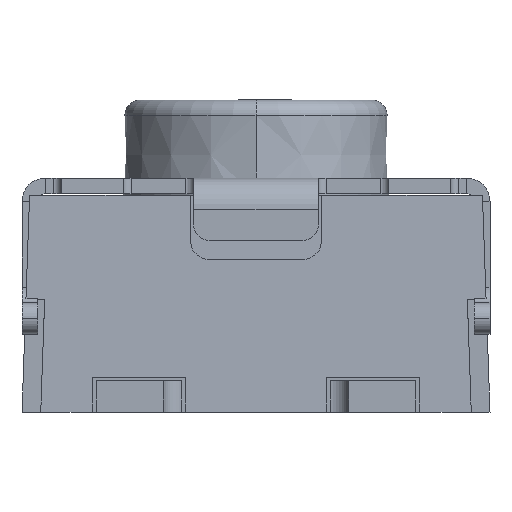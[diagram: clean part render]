
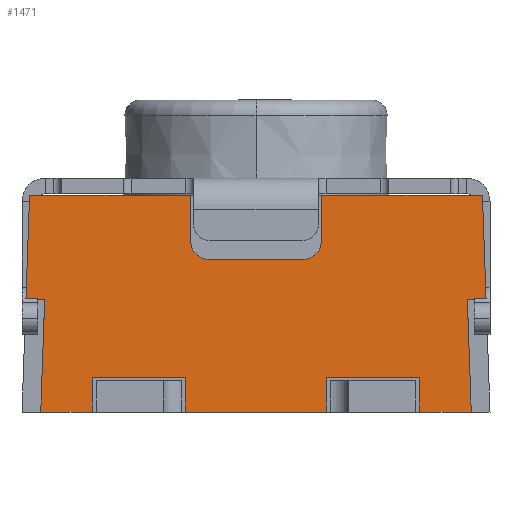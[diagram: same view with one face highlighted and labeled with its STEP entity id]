
A CAD part, left-side view. The second image highlights one B-rep face of the part: STEP entity #1471.
In plain terms, the highlighted planar face has unit normal (-0.999, 0, 0.035).
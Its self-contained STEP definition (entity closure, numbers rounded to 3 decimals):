
#177 = VERTEX_POINT('',#178);
#178 = CARTESIAN_POINT('',(-1.701,-0.42,1.39));
#184 = EDGE_CURVE('',#177,#185,#187,.T.);
#185 = VERTEX_POINT('',#186);
#186 = CARTESIAN_POINT('',(-1.701,-1.451,1.39));
#187 = LINE('',#188,#189);
#188 = CARTESIAN_POINT('',(-1.701,1.5,1.39));
#189 = VECTOR('',#190,1.);
#190 = DIRECTION('',(0.,-1.,0.));
#321 = VERTEX_POINT('',#322);
#322 = CARTESIAN_POINT('',(-1.701,1.451,1.39));
#328 = EDGE_CURVE('',#321,#329,#331,.T.);
#329 = VERTEX_POINT('',#330);
#330 = CARTESIAN_POINT('',(-1.701,0.42,1.39));
#331 = LINE('',#332,#333);
#332 = CARTESIAN_POINT('',(-1.701,1.5,1.39));
#333 = VECTOR('',#334,1.);
#334 = DIRECTION('',(0.,-1.,0.));
#1159 = VERTEX_POINT('',#1160);
#1160 = CARTESIAN_POINT('',(-1.75,1.05,0.));
#1166 = EDGE_CURVE('',#1167,#1159,#1169,.T.);
#1167 = VERTEX_POINT('',#1168);
#1168 = CARTESIAN_POINT('',(-1.75,1.38,0.));
#1169 = LINE('',#1170,#1171);
#1170 = CARTESIAN_POINT('',(-1.75,1.5,0.));
#1171 = VECTOR('',#1172,1.);
#1172 = DIRECTION('',(0.,-1.,0.));
#1292 = VERTEX_POINT('',#1293);
#1293 = CARTESIAN_POINT('',(-1.75,-1.38,0.));
#1299 = EDGE_CURVE('',#1300,#1292,#1302,.T.);
#1300 = VERTEX_POINT('',#1301);
#1301 = CARTESIAN_POINT('',(-1.75,-1.05,0.));
#1302 = LINE('',#1303,#1304);
#1303 = CARTESIAN_POINT('',(-1.75,1.5,0.));
#1304 = VECTOR('',#1305,1.);
#1305 = DIRECTION('',(0.,-1.,0.));
#1324 = VERTEX_POINT('',#1325);
#1325 = CARTESIAN_POINT('',(-1.75,-0.45,0.));
#1331 = EDGE_CURVE('',#1332,#1324,#1334,.T.);
#1332 = VERTEX_POINT('',#1333);
#1333 = CARTESIAN_POINT('',(-1.75,0.45,0.));
#1334 = LINE('',#1335,#1336);
#1335 = CARTESIAN_POINT('',(-1.75,1.5,0.));
#1336 = VECTOR('',#1337,1.);
#1337 = DIRECTION('',(0.,-1.,0.));
#1438 = VERTEX_POINT('',#1439);
#1439 = CARTESIAN_POINT('',(-1.725,1.475,
    0.727));
#1445 = EDGE_CURVE('',#321,#1438,#1446,.T.);
#1446 = LINE('',#1447,#1448);
#1447 = CARTESIAN_POINT('',(-1.75,1.5,0.));
#1448 = VECTOR('',#1449,1.);
#1449 = DIRECTION('',(-0.035,0.035,
    -0.999));
#1471 = ADVANCED_FACE('',(#1472),#1600,.T.);
#1472 = FACE_BOUND('',#1473,.T.);
#1473 = EDGE_LOOP('',(#1474,#1475,#1483,#1491,#1497,#1498,#1506,#1514,
    #1520,#1521,#1529,#1537,#1543,#1544,#1552,#1561,#1569,#1578,#1584,
    #1585,#1586,#1594));
#1474 = ORIENTED_EDGE('',*,*,#1166,.T.);
#1475 = ORIENTED_EDGE('',*,*,#1476,.T.);
#1476 = EDGE_CURVE('',#1159,#1477,#1479,.T.);
#1477 = VERTEX_POINT('',#1478);
#1478 = CARTESIAN_POINT('',(-1.742,1.05,0.22));
#1479 = LINE('',#1480,#1481);
#1480 = CARTESIAN_POINT('',(-1.75,1.05,0.));
#1481 = VECTOR('',#1482,1.);
#1482 = DIRECTION('',(0.035,0.,
    0.999));
#1483 = ORIENTED_EDGE('',*,*,#1484,.F.);
#1484 = EDGE_CURVE('',#1485,#1477,#1487,.T.);
#1485 = VERTEX_POINT('',#1486);
#1486 = CARTESIAN_POINT('',(-1.742,0.45,0.22));
#1487 = LINE('',#1488,#1489);
#1488 = CARTESIAN_POINT('',(-1.742,1.5,0.22));
#1489 = VECTOR('',#1490,1.);
#1490 = DIRECTION('',(0.,1.,0.));
#1491 = ORIENTED_EDGE('',*,*,#1492,.T.);
#1492 = EDGE_CURVE('',#1485,#1332,#1493,.T.);
#1493 = LINE('',#1494,#1495);
#1494 = CARTESIAN_POINT('',(-1.75,0.45,0.));
#1495 = VECTOR('',#1496,1.);
#1496 = DIRECTION('',(-0.035,0.,
    -0.999));
#1497 = ORIENTED_EDGE('',*,*,#1331,.T.);
#1498 = ORIENTED_EDGE('',*,*,#1499,.T.);
#1499 = EDGE_CURVE('',#1324,#1500,#1502,.T.);
#1500 = VERTEX_POINT('',#1501);
#1501 = CARTESIAN_POINT('',(-1.742,-0.45,0.22));
#1502 = LINE('',#1503,#1504);
#1503 = CARTESIAN_POINT('',(-1.75,-0.45,0.));
#1504 = VECTOR('',#1505,1.);
#1505 = DIRECTION('',(0.035,0.,
    0.999));
#1506 = ORIENTED_EDGE('',*,*,#1507,.T.);
#1507 = EDGE_CURVE('',#1500,#1508,#1510,.T.);
#1508 = VERTEX_POINT('',#1509);
#1509 = CARTESIAN_POINT('',(-1.742,-1.05,0.22));
#1510 = LINE('',#1511,#1512);
#1511 = CARTESIAN_POINT('',(-1.742,1.5,0.22));
#1512 = VECTOR('',#1513,1.);
#1513 = DIRECTION('',(0.,-1.,0.));
#1514 = ORIENTED_EDGE('',*,*,#1515,.T.);
#1515 = EDGE_CURVE('',#1508,#1300,#1516,.T.);
#1516 = LINE('',#1517,#1518);
#1517 = CARTESIAN_POINT('',(-1.75,-1.05,0.));
#1518 = VECTOR('',#1519,1.);
#1519 = DIRECTION('',(-0.035,0.,
    -0.999));
#1520 = ORIENTED_EDGE('',*,*,#1299,.T.);
#1521 = ORIENTED_EDGE('',*,*,#1522,.F.);
#1522 = EDGE_CURVE('',#1523,#1292,#1525,.T.);
#1523 = VERTEX_POINT('',#1524);
#1524 = CARTESIAN_POINT('',(-1.725,-1.355,0.723
    ));
#1525 = LINE('',#1526,#1527);
#1526 = CARTESIAN_POINT('',(-1.746,-1.376,
    0.1));
#1527 = VECTOR('',#1528,1.);
#1528 = DIRECTION('',(-0.035,-0.035,
    -0.999));
#1529 = ORIENTED_EDGE('',*,*,#1530,.T.);
#1530 = EDGE_CURVE('',#1523,#1531,#1533,.T.);
#1531 = VERTEX_POINT('',#1532);
#1532 = CARTESIAN_POINT('',(-1.725,-1.475,
    0.727));
#1533 = LINE('',#1534,#1535);
#1534 = CARTESIAN_POINT('',(-1.728,1.522,
    0.623));
#1535 = VECTOR('',#1536,1.);
#1536 = DIRECTION('',(0.001,-0.999,
    0.035));
#1537 = ORIENTED_EDGE('',*,*,#1538,.F.);
#1538 = EDGE_CURVE('',#185,#1531,#1539,.T.);
#1539 = LINE('',#1540,#1541);
#1540 = CARTESIAN_POINT('',(-1.75,-1.5,0.));
#1541 = VECTOR('',#1542,1.);
#1542 = DIRECTION('',(-0.035,-0.035,
    -0.999));
#1543 = ORIENTED_EDGE('',*,*,#184,.F.);
#1544 = ORIENTED_EDGE('',*,*,#1545,.F.);
#1545 = EDGE_CURVE('',#1546,#177,#1548,.T.);
#1546 = VERTEX_POINT('',#1547);
#1547 = CARTESIAN_POINT('',(-1.712,-0.42,1.099));
#1548 = LINE('',#1549,#1550);
#1549 = CARTESIAN_POINT('',(-1.712,-0.42,1.099));
#1550 = VECTOR('',#1551,1.);
#1551 = DIRECTION('',(0.035,0.,0.999));
#1552 = ORIENTED_EDGE('',*,*,#1553,.F.);
#1553 = EDGE_CURVE('',#1554,#1546,#1556,.T.);
#1554 = VERTEX_POINT('',#1555);
#1555 = CARTESIAN_POINT('',(-1.716,-0.3,0.979));
#1556 = CIRCLE('',#1557,0.12);
#1557 = AXIS2_PLACEMENT_3D('',#1558,#1559,#1560);
#1558 = CARTESIAN_POINT('',(-1.712,-0.3,
    1.099));
#1559 = DIRECTION('',(-0.999,0.,
    0.035));
#1560 = DIRECTION('',(0.035,0.,
    0.999));
#1561 = ORIENTED_EDGE('',*,*,#1562,.F.);
#1562 = EDGE_CURVE('',#1563,#1554,#1565,.T.);
#1563 = VERTEX_POINT('',#1564);
#1564 = CARTESIAN_POINT('',(-1.716,0.3,0.979));
#1565 = LINE('',#1566,#1567);
#1566 = CARTESIAN_POINT('',(-1.716,0.3,0.979));
#1567 = VECTOR('',#1568,1.);
#1568 = DIRECTION('',(0.,-1.,0.));
#1569 = ORIENTED_EDGE('',*,*,#1570,.F.);
#1570 = EDGE_CURVE('',#1571,#1563,#1573,.T.);
#1571 = VERTEX_POINT('',#1572);
#1572 = CARTESIAN_POINT('',(-1.712,0.42,1.099));
#1573 = CIRCLE('',#1574,0.12);
#1574 = AXIS2_PLACEMENT_3D('',#1575,#1576,#1577);
#1575 = CARTESIAN_POINT('',(-1.712,0.3,
    1.099));
#1576 = DIRECTION('',(-0.999,0.,
    0.035));
#1577 = DIRECTION('',(0.035,0.,
    0.999));
#1578 = ORIENTED_EDGE('',*,*,#1579,.F.);
#1579 = EDGE_CURVE('',#329,#1571,#1580,.T.);
#1580 = LINE('',#1581,#1582);
#1581 = CARTESIAN_POINT('',(-1.701,0.42,1.39));
#1582 = VECTOR('',#1583,1.);
#1583 = DIRECTION('',(-0.035,0.,
    -0.999));
#1584 = ORIENTED_EDGE('',*,*,#328,.F.);
#1585 = ORIENTED_EDGE('',*,*,#1445,.T.);
#1586 = ORIENTED_EDGE('',*,*,#1587,.F.);
#1587 = EDGE_CURVE('',#1588,#1438,#1590,.T.);
#1588 = VERTEX_POINT('',#1589);
#1589 = CARTESIAN_POINT('',(-1.725,1.355,0.723)
  );
#1590 = LINE('',#1591,#1592);
#1591 = CARTESIAN_POINT('',(-1.725,1.475,
    0.727));
#1592 = VECTOR('',#1593,1.);
#1593 = DIRECTION('',(0.001,0.999,
    0.035));
#1594 = ORIENTED_EDGE('',*,*,#1595,.F.);
#1595 = EDGE_CURVE('',#1167,#1588,#1596,.T.);
#1596 = LINE('',#1597,#1598);
#1597 = CARTESIAN_POINT('',(-1.75,1.38,
    -0.004));
#1598 = VECTOR('',#1599,1.);
#1599 = DIRECTION('',(0.035,-0.035,
    0.999));
#1600 = PLANE('',#1601);
#1601 = AXIS2_PLACEMENT_3D('',#1602,#1603,#1604);
#1602 = CARTESIAN_POINT('',(-1.75,1.5,0.));
#1603 = DIRECTION('',(-0.999,0.,
    0.035));
#1604 = DIRECTION('',(0.035,0.,0.999
    ));
